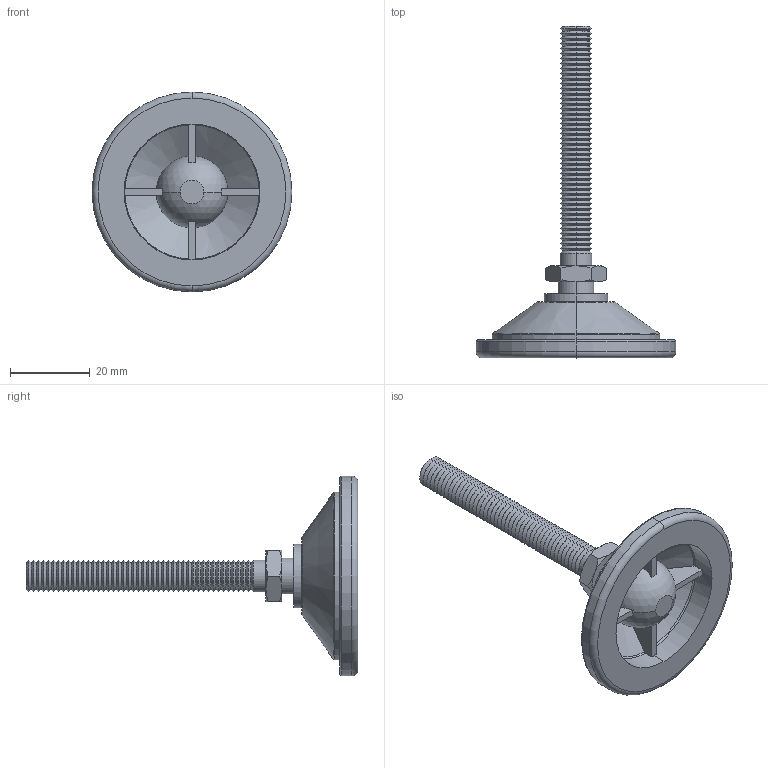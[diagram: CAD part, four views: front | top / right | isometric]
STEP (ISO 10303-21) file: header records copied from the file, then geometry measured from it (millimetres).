
FILE_DESCRIPTION (( 'STEP AP203' ), '1' );
FILE_NAME ('34741.W0085.step', '2016-09-22T07:38:59', ( 'User' ), ( '' ), 'SwSTEP 2.0', 'SolidWorks 2009', '' );
FILE_SCHEMA (( 'CONFIG_CONTROL_DESIGN' ));
Length unit declared in the file: millimetre
Products named in the file (3): 34741.W0085; Part1_34741.W0085; Part2_34741.W0085
Assembly tree (2 placements, depth 2):
  34741.W0085
    Part1_34741.W0085
    Part2_34741.W0085
Bounding box: 50 x 83 x 50 mm (x, y, z)
Volume: 14531.3 mm3; surface area: 10204 mm2
Topology: 2 solids, 2 shells, 260 faces, 556 edges, 302 vertices
Faces by surface type: cone 202, plane 26, cylinder 14, torus 12, sphere 6
Entity records: 7237 total; most frequent: DIRECTION 1322, CARTESIAN_POINT 1309, ORIENTED_EDGE 1094, AXIS2_PLACEMENT_3D 550, EDGE_CURVE 547, VERTEX_POINT 297, CIRCLE 285, EDGE_LOOP 266
